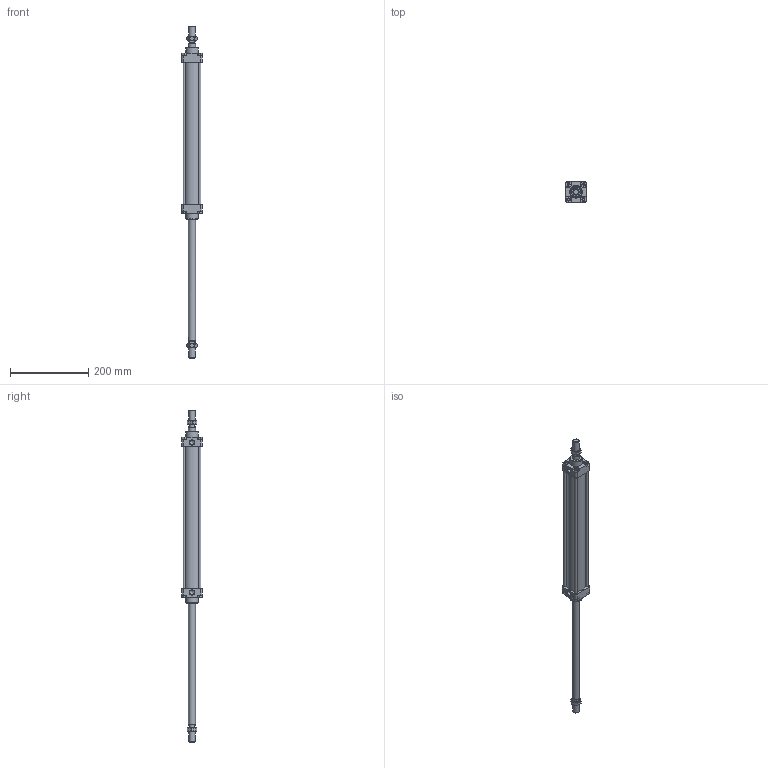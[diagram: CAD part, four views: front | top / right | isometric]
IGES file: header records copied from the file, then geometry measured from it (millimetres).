
Global section: file name: 1303_040_0300_02A; native system: Autodesk Inventor 2014; preprocessor: unknown; author: A. Manieri; date: 20161123.144257; units: millimetre
Bounding box: 52 x 52 x 850 mm (x, y, z)
Volume: 558453.7 mm3; surface area: 215339.4 mm2
Topology: 10 solids, 10 shells, 189 faces, 471 edges, 314 vertices
Faces by surface type: bspline 189
